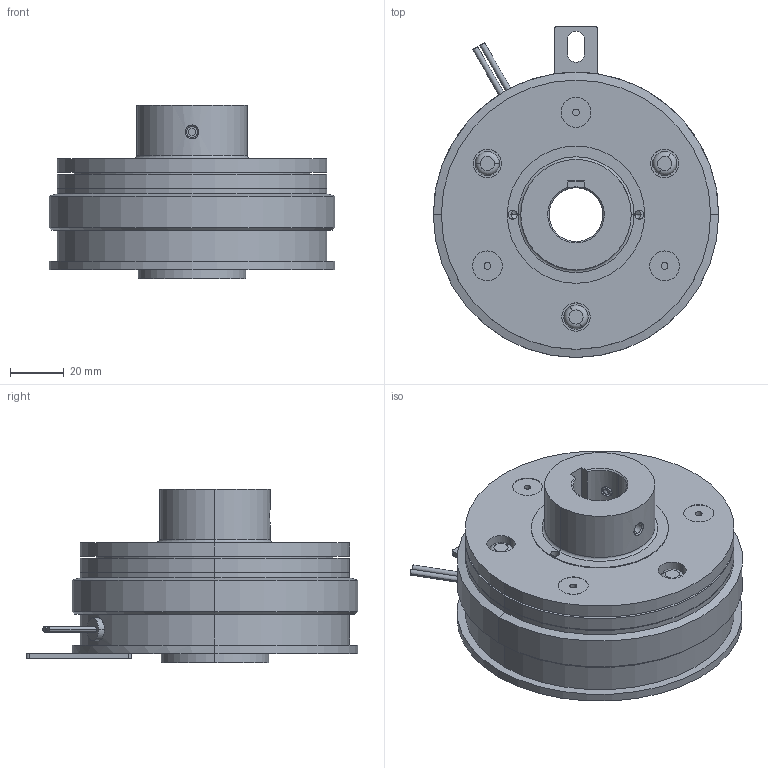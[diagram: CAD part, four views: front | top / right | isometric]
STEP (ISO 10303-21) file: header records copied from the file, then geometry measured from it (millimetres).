
FILE_DESCRIPTION (( 'STEP AP214' ), '1' );
FILE_NAME ('CS-10-31G R20DIN A20DIN.STEP', '2018-02-21T08:00:04', ( 'MIKI' ), ( '' ), 'SwSTEP 2.0', 'SolidWorks 2012', '' );
FILE_SCHEMA (( 'AUTOMOTIVE_DESIGN' ));
Length unit declared in the file: millimetre
Products named in the file (1): CS-10-31G R20DIN A20DIN
Bounding box: 106 x 123 x 64.6 mm (x, y, z)
Volume: 331356.7 mm3; surface area: 58958.4 mm2
Topology: 1 solids, 5 shells, 242 faces, 531 edges, 332 vertices
Faces by surface type: cylinder 114, plane 77, cone 37, torus 14
Entity records: 9602 total; most frequent: CARTESIAN_POINT 1396, DIRECTION 1266, ORIENTED_EDGE 1038, AXIS2_PLACEMENT_3D 520, EDGE_CURVE 519, VERTEX_POINT 332, EDGE_LOOP 297, CIRCLE 277
